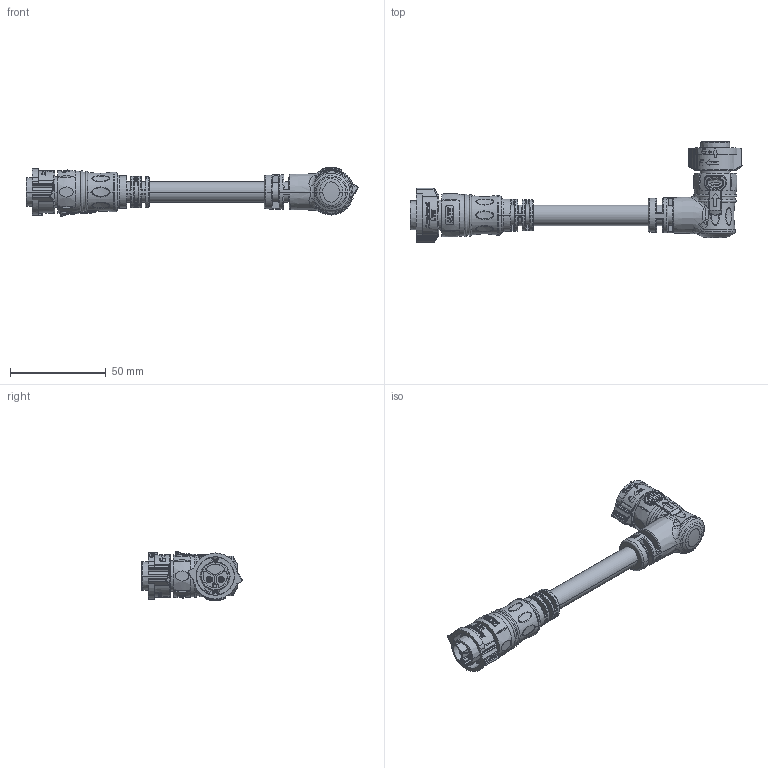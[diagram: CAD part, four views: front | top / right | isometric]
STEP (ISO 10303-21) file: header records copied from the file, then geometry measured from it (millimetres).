
FILE_DESCRIPTION((''),'2;1');
FILE_NAME('AB-CC02BL-CCBR-QEXXX_SW0001','2021-10-27T',('L100003'),(''),'PRO/ENGINEER BY PARAMETRIC TECHNOLOGY CORPORATION, 2017170','PRO/ENGINEER BY PARAMETRIC TECHNOLOGY CORPORATION, 2017170','');
FILE_SCHEMA(('CONFIG_CONTROL_DESIGN'));
Products named in the file (1): AB-CC02BL-CCBR-QEXXX_SW0001
Bounding box: 173.2 x 52.3 x 25.76 mm (x, y, z)
Volume: 44939.3 mm3; surface area: 19591.4 mm2
Topology: 3 solids, 3 shells, 1987 faces, 5377 edges, 3497 vertices
Faces by surface type: plane 764, extrusion 423, bspline 349, cylinder 264, cone 109, torus 63, sphere 13, revolution 2
Entity records: 93353 total; most frequent: CARTESIAN_POINT 47920, ORIENTED_EDGE 10754, DIRECTION 7193, EDGE_CURVE 5377, VERTEX_POINT 3497, B_SPLINE_CURVE_WITH_KNOTS 2581, VECTOR 2523, AXIS2_PLACEMENT_3D 2334
